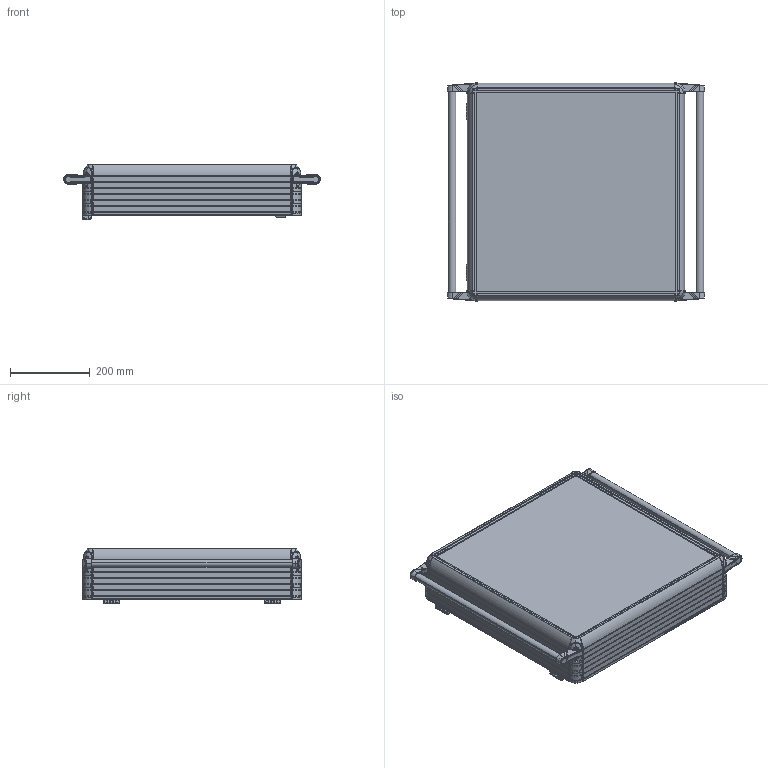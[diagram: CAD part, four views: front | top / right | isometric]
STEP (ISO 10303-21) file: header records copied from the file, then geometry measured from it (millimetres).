
FILE_DESCRIPTION (( 'STEP AP214' ), '1' );
FILE_NAME ('1200-0212.STEP', '2022-09-01T08:10:36', ( '' ), ( '' ), 'SwSTEP 2.0', 'SolidWorks 2022', '' );
FILE_SCHEMA (( 'AUTOMOTIVE_DESIGN' ));
Length unit declared in the file: millimetre
Products named in the file (7): 1200-0212; ECO1200-0100(SAÐ); boru_525; HPECO-120-001-295_495; ARKA_KAPAK_500X500; ECO1200-0100(SOL); 500X500
Assembly tree (12 placements, depth 2):
  1200-0212
    500X500
    ARKA_KAPAK_500X500
    HPECO-120-001-295_495  x4
    boru_525  x2
    ECO1200-0100(SAÐ)  x2
    ECO1200-0100(SOL)  x2
Bounding box: 644.62 x 547 x 139.15 mm (x, y, z)
Volume: 5382047.3 mm3; surface area: 2048394.6 mm2
Topology: 20 solids, 74 shells, 6953 faces, 18774 edges, 11682 vertices
Faces by surface type: plane 2745, cylinder 1840, bspline 1380, cone 598, torus 344, sphere 46
Entity records: 211013 total; most frequent: CARTESIAN_POINT 57282, ORIENTED_EDGE 24408, DIRECTION 19920, EDGE_CURVE 12204, VERTEX_POINT 7600, AXIS2_PLACEMENT_3D 7238, LINE 5444, VECTOR 5444
